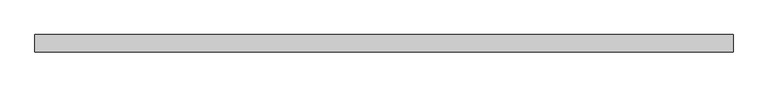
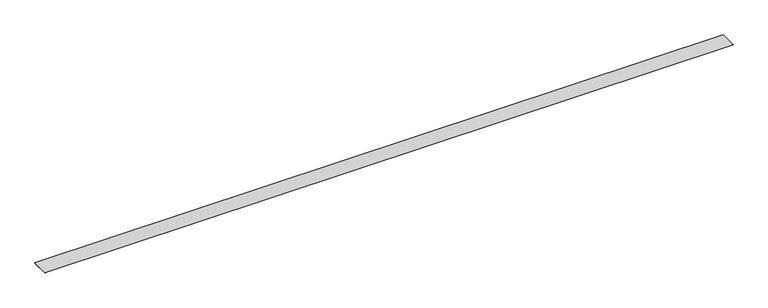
"""IFC4 building model written with IfcOpenShell, lengths in millimetres: proxy geometry, Sika® CarboDur® M914 : Sika® CarboDur® S1012."""

from ifc_helpers import new_model, si_unit, origin, origin_with_axes, place, context, project, spatial, polyline, outline, extrude, source, transform, mapped, element, save


def generic_models_3cfb63a7(model_context):
    return source(origin(), model_context, "Body", "SweptSolid", [
        extrude(outline(polyline([(2016.9606019, 50.0), (2016.9606019, -50.0), (-2016.9606019, -50.0), (-2016.9606019, 50.0), (2016.9606019, 50.0)])), origin_with_axes(), (0.0, 0.0, 1.0), 1.2),
    ])


if __name__ == "__main__":
    model = new_model("IFC4")
    model_context = context("Model", 3, world=origin())
    ifc_project = project(units=[si_unit("LENGTHUNIT", "METRE", prefix="MILLI")], contexts=[model_context])
    site = spatial("IfcSite", under=ifc_project)
    building = spatial("IfcBuilding", under=site)
    placement = place(None, origin())
    generic_models_shape = generic_models_3cfb63a7(model_context)
    element("IfcBuildingElementProxy", 1, Name="Sika® CarboDur® M914 : Sika® CarboDur® S1012", ObjectType="Sika® CarboDur® M914 : Sika® CarboDur® S1012", at=placement, inside=building, context=model_context, shape_type="MappedRepresentation", body=[
        mapped(generic_models_shape, transform((0.0, 0.0, 0.0), x_axis=(1.0, 0.0, 0.0), y_axis=(0.0, 1.0, 0.0), z_axis=(0.0, 0.0, 1.0))),
    ])
    save(model, "model.ifc")
